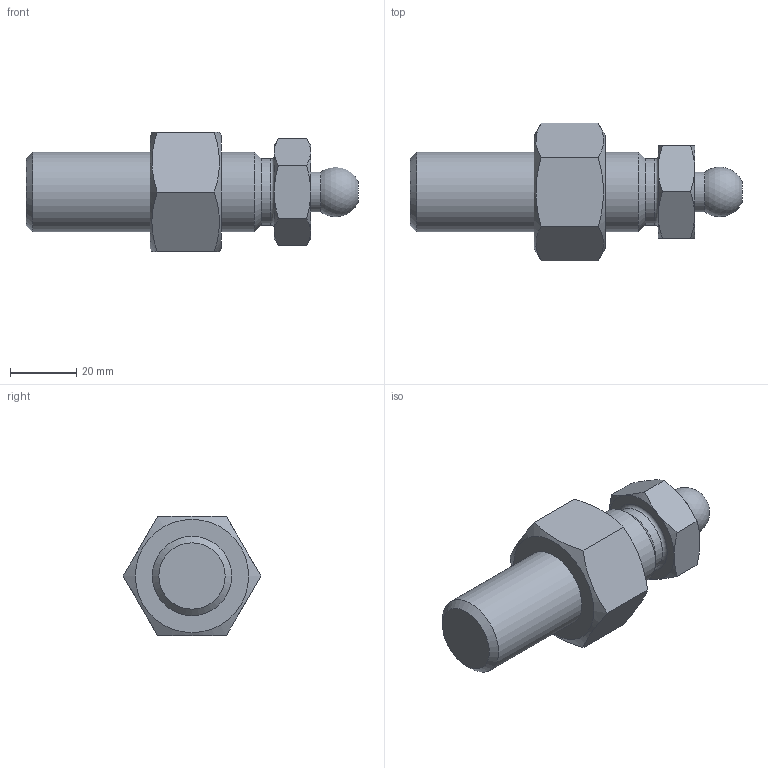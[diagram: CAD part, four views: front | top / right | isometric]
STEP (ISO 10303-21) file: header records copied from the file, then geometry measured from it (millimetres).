
FILE_DESCRIPTION(('STEP AP203'), '1');
FILE_NAME('A00020.124150', '', ('UNSPECIFIED'), ('UNSPECIFIED'), 'C3D Converter', 'C3D Toolkit', '');
FILE_SCHEMA(('CONFIG_CONTROL_DESIGN'));
Length unit declared in the file: millimetre
Products named in the file (2): A00020.124150
Assembly tree (1 placements, depth 2):
  A00020.124150
    (unnamed)
Bounding box: 100.3 x 41.57 x 36 mm (x, y, z)
Volume: 58853.6 mm3; surface area: 13922.5 mm2
Topology: 2 solids, 2 shells, 42 faces, 99 edges, 63 vertices
Faces by surface type: plane 18, cone 18, cylinder 4, torus 1, sphere 1
Full cylindrical faces by diameter (mm): 12 x1, 20 x1, 20.752 x1, 24 x1
Entity records: 2639 total; most frequent: CARTESIAN_POINT 1328, DIRECTION 174, ORIENTED_EDGE 174, EDGE_CURVE 87, AXIS2_PLACEMENT_3D 81, VERTEX_POINT 63, EDGE_LOOP 58, FACE_BOUND 46
